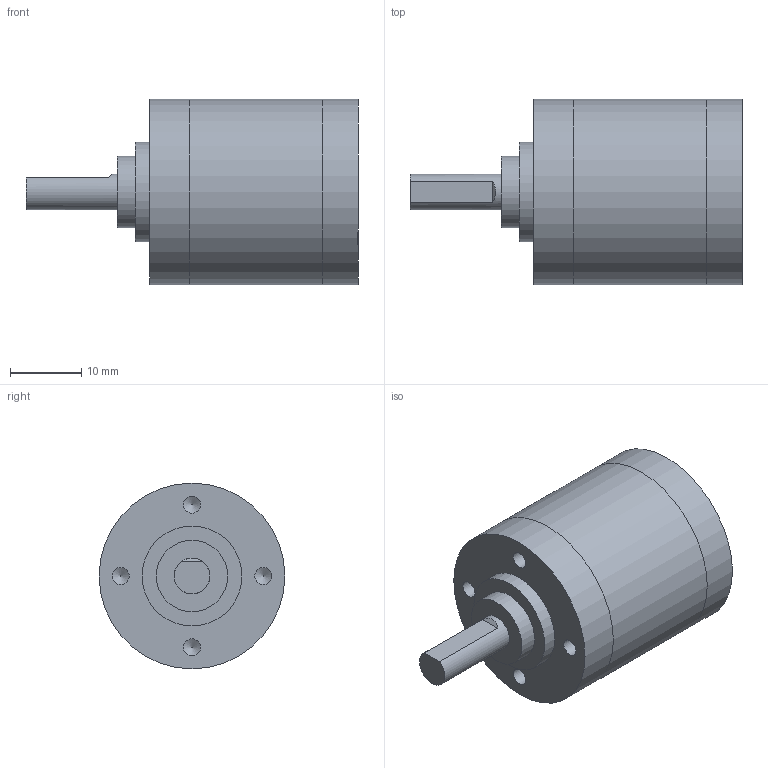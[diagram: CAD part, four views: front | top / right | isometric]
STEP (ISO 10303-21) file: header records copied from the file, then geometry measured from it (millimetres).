
FILE_DESCRIPTION(('Bauteilbeschreibung','HiCAD-Model','HiCAD-STEP-TRANSLATION','Bauteilbeschreibung'),'2;1');
FILE_NAME('P:/PRIVAT/BJA/KATOLOG_STEP_DATEIEN/GP26B/GP26B_1-STUFIG.STP','2004-12-08T13:47:28+00:00',('Konstrukteur'),('Konstrukteur Firma GmbH'),'HiCAD2 V1102 STEP 20.9.2001','HiCAD2 V1102','confidential');
FILE_SCHEMA(('AUTOMOTIVE_DESIGN { 1 2 10303 214 0 1 1 1 }'));
Length unit declared in the file: millimetre
Products named in the file (2): A01_000X; A010000X
Assembly tree (1 placements, depth 2):
  A01_000X
    A010000X
Bounding box: 46.5 x 26 x 26 mm (x, y, z)
Volume: 15425.3 mm3; surface area: 4333.7 mm2
Topology: 1 solids, 1 shells, 33 faces, 61 edges, 41 vertices
Faces by surface type: plane 15, cylinder 14, cone 4
Full cylindrical faces by diameter (mm): 2.1 x3, 2.39 x4, 5 x1, 10 x2, 14 x1, 26 x3
Entity records: 1158 total; most frequent: DIRECTION 136, CARTESIAN_POINT 103, ORIENTED_EDGE 70, COLOUR_RGB 69, PRESENTATION_STYLE_ASSIGNMENT 69, OVER_RIDING_STYLED_ITEM 68, AXIS2_PLACEMENT_3D 66, EDGE_LOOP 62
